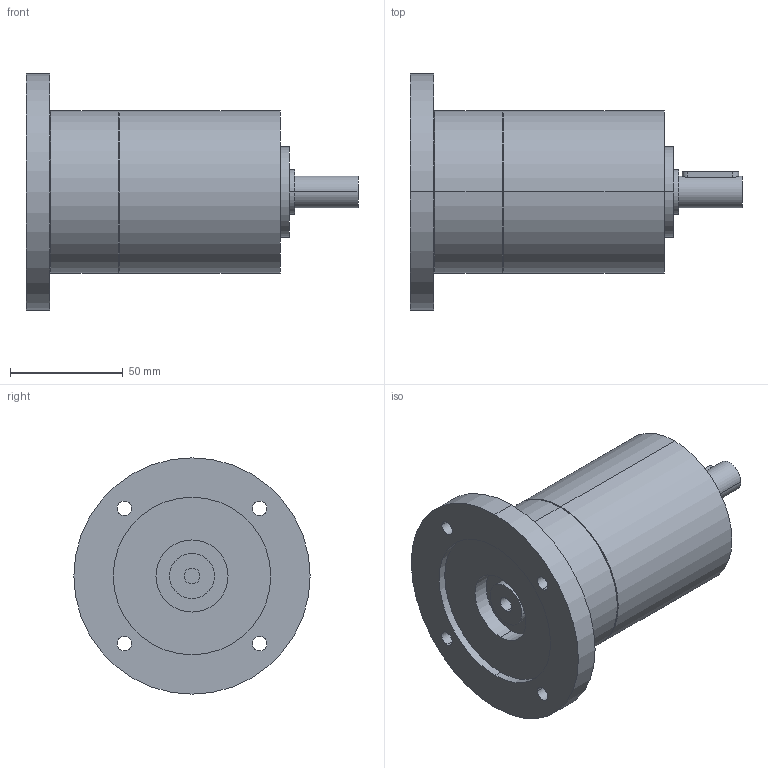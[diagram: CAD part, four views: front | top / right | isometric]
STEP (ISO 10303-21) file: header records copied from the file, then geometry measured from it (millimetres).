
FILE_DESCRIPTION(('CoCreate Modeling STEP Export'),'2;1');
FILE_NAME('GPT75_ig-9-12-16-20-25-28-35-40-50-70-100_14_B14T_7_P05.stp','2014-08-27T13:23:09',(''),(''),'CoCreate Modeling STEP processor for AP214 (Solid Model)','CoCreate Modeling 16.00C 25-Feb-2009 (C) Parametric Technology GmbH','');
FILE_SCHEMA(('AUTOMOTIVE_DESIGN { 1 0 10303 214 1 1 1 1 }'));
Length unit declared in the file: millimetre
Products named in the file (2): GPT75_ig-9-12-16-20-25-28-35-40-50-70-100_14_B14T_7_P05
Assembly tree (1 placements, depth 2):
  GPT75_ig-9-12-16-20-25-28-35-40-50-70-100_14_B14T_7_P05
    GPT75_ig-9-12-16-20-25-28-35-40-50-70-100_14_B14T_7_P05
Bounding box: 147.5 x 105 x 105 mm (x, y, z)
Volume: 496925.5 mm3; surface area: 50110.9 mm2
Topology: 1 solids, 1 shells, 63 faces, 150 edges, 103 vertices
Faces by surface type: cylinder 40, plane 19, cone 4
Entity records: 1954 total; most frequent: CARTESIAN_POINT 627, ORIENTED_EDGE 300, DIRECTION 222, EDGE_CURVE 150, VERTEX_POINT 103, AXIS2_PLACEMENT_3D 86, EDGE_LOOP 85, FACE_OUTER_BOUND 63
